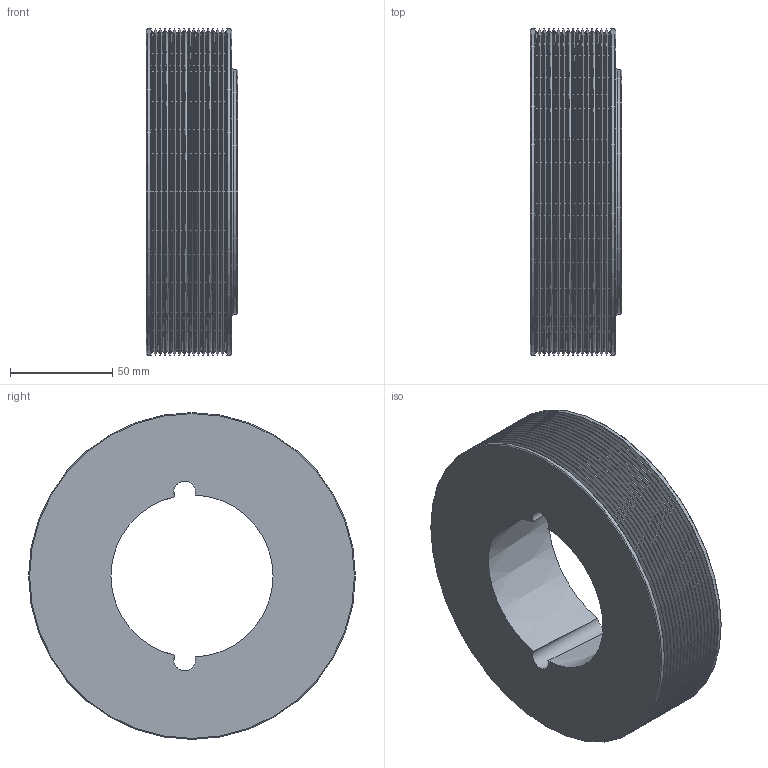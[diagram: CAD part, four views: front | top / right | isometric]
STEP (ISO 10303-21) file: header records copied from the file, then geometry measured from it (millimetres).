
FILE_DESCRIPTION(/* description */ (''),/* implementation_level */ '2;1');
FILE_NAME(/* name */ 'C:\Users\stagistacad\Desktop\48116160.stp',/* time_stamp */ '2018-06-14T10:35:20+02:00',/* author */ ('stagistacad'),/* organization */ (''),/* preprocessor_version */ 'ST-DEVELOPER v15.6',/* originating_system */ 'Autodesk Inventor 2015',/* authorisation */ '');
FILE_SCHEMA (('AUTOMOTIVE_DESIGN { 1 0 10303 214 3 1 1 }'));
Length unit declared in the file: millimetre
Products named in the file (1): 48116160
Bounding box: 45 x 160 x 160 mm (x, y, z)
Volume: 609860.4 mm3; surface area: 86368.9 mm2
Topology: 1 solids, 1 shells, 81 faces, 167 edges, 88 vertices
Faces by surface type: cone 38, torus 34, cylinder 6, plane 3
Full cylindrical faces by diameter (mm): 120 x1, 160 x2
Entity records: 1788 total; most frequent: DIRECTION 334, CARTESIAN_POINT 331, ORIENTED_EDGE 184, AXIS2_PLACEMENT_3D 167, EDGE_LOOP 156, EDGE_CURVE 92, VERTEX_POINT 86, CIRCLE 85
